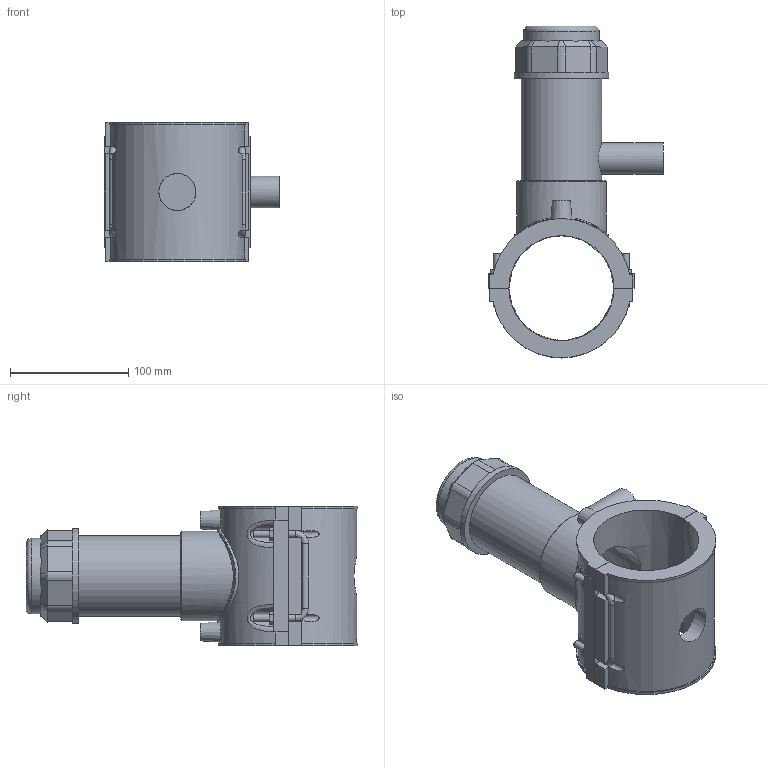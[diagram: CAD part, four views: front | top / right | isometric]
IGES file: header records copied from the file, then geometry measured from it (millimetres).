
Global section: file name: 5963BB03030007.ipt; native system: Autodesk Inventor 2019; preprocessor: unknown; author: KIM; date: 20210830.101345; units: millimetre
Bounding box: 147.56 x 280.2 x 118.11 mm (x, y, z)
Volume: 852622.5 mm3; surface area: 172987.4 mm2
Topology: 1 solids, 1 shells, 210 faces, 552 edges, 361 vertices
Faces by surface type: plane 128, cylinder 37, revolution 24, cone 15, bspline 6
Full cylindrical faces by diameter (mm): 4 x2, 6 x8, 26.6 x1, 63.864 x1, 67.856 x1, 75.838 x1, 79.83 x1
